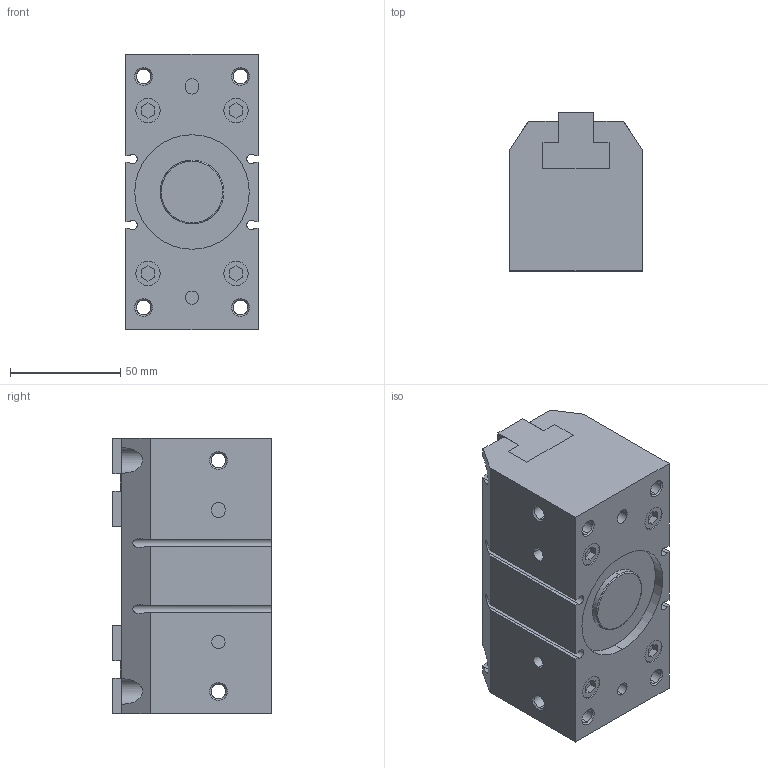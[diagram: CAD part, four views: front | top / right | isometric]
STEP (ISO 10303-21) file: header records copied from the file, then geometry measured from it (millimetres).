
FILE_DESCRIPTION (( 'STEP AP203' ), '1' );
FILE_NAME ('SDW50_0_.STEP', '2022-10-17T02:10:31', ( '' ), ( '' ), 'SwSTEP 2.0', 'SolidWorks 2018', '' );
FILE_SCHEMA (( 'CONFIG_CONTROL_DESIGN' ));
Length unit declared in the file: millimetre
Products named in the file (3): SDW50_0_; SDW50-06; SDW50-01
Assembly tree (3 placements, depth 2):
  SDW50_0_
    SDW50-01  x2
    SDW50-06
Bounding box: 60 x 72 x 125 mm (x, y, z)
Volume: 466422.6 mm3; surface area: 68469 mm2
Topology: 3 solids, 3 shells, 262 faces, 644 edges, 416 vertices
Faces by surface type: plane 152, cylinder 84, cone 24, torus 2
Entity records: 7705 total; most frequent: CARTESIAN_POINT 1700, DIRECTION 1180, ORIENTED_EDGE 1160, EDGE_CURVE 580, VECTOR 396, LINE 396, AXIS2_PLACEMENT_3D 392, VERTEX_POINT 374
